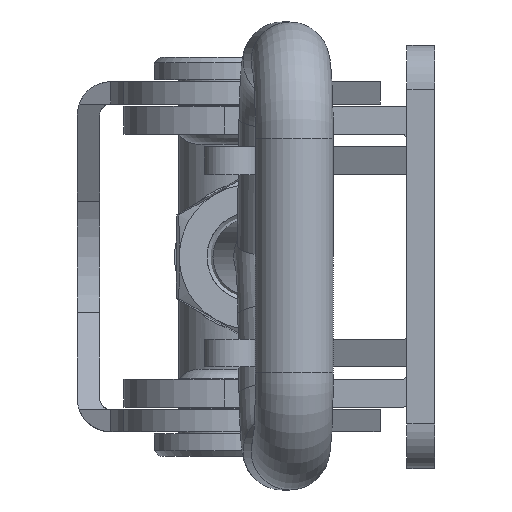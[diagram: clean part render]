
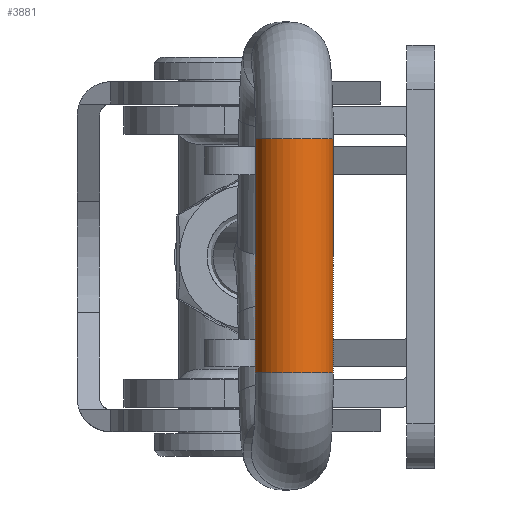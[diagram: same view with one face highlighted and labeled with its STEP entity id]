
A CAD part, left-side view. The second image highlights one B-rep face of the part: STEP entity #3881.
In plain terms, the highlighted cylindrical face has radius 3.5 mm (diameter 7 mm), a full revolution.
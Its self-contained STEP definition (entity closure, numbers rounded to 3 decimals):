
#160=CYLINDRICAL_SURFACE('',#4250,3.5);
#304=CIRCLE('',#4249,3.5);
#305=CIRCLE('',#4251,3.5);
#839=ORIENTED_EDGE('',*,*,#1746,.F.);
#840=ORIENTED_EDGE('',*,*,#1745,.T.);
#1745=EDGE_CURVE('',#2236,#2236,#304,.T.);
#1746=EDGE_CURVE('',#2237,#2237,#305,.T.);
#2236=VERTEX_POINT('',#6321);
#2237=VERTEX_POINT('',#6324);
#3149=EDGE_LOOP('',(#839));
#3150=EDGE_LOOP('',(#840));
#3480=FACE_BOUND('',#3149,.T.);
#3481=FACE_BOUND('',#3150,.T.);
#3881=ADVANCED_FACE('',(#3480,#3481),#160,.T.);
#4249=AXIS2_PLACEMENT_3D('',#6320,#4959,#4960);
#4250=AXIS2_PLACEMENT_3D('',#6322,#4961,#4962);
#4251=AXIS2_PLACEMENT_3D('',#6323,#4963,#4964);
#4959=DIRECTION('',(0.,0.,-1.));
#4960=DIRECTION('',(-1.,0.,0.));
#4961=DIRECTION('',(0.,0.,1.));
#4962=DIRECTION('',(1.,0.,0.));
#4963=DIRECTION('',(0.,0.,-1.));
#4964=DIRECTION('',(-1.,0.,0.));
#6320=CARTESIAN_POINT('',(-79.626,0.,10.428));
#6321=CARTESIAN_POINT('',(-83.126,0.,10.428));
#6322=CARTESIAN_POINT('',(-79.626,0.,-10.572));
#6323=CARTESIAN_POINT('',(-79.626,0.,-10.572));
#6324=CARTESIAN_POINT('',(-83.126,0.,-10.572));
